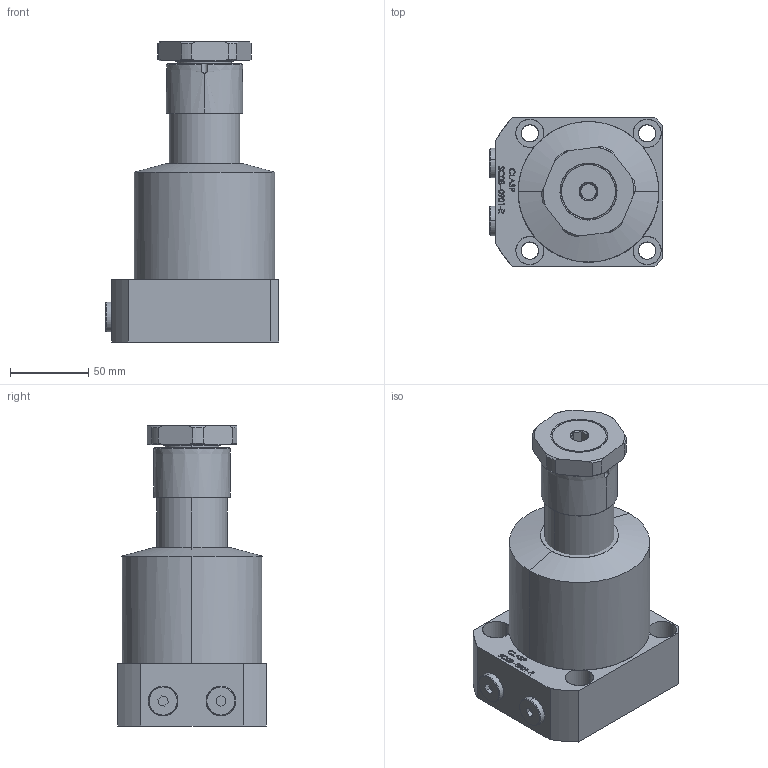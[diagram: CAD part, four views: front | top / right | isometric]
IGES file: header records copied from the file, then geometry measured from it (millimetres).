
Start section: SolidWorks IGES file using analytic representation for surfaces
Global section: file name: D:\karuppas\Clasp\3D model\SWING CYLINDER\bottom mounting swing cylinder\SC08-0901-R\SC08-0901-R.IGS; native system: SolidWorks 2017; preprocessor: SolidWorks 2017; author: pc; date: 220708.225206; units: millimetre
Bounding box: 111 x 95 x 192 mm (x, y, z)
Surface area: 98300.9 mm2 (no closed solid volume)
Topology: 0 solids, 0 shells, 383 faces, 6277 edges, 6276 vertices
Faces by surface type: bspline 276, revolution 107
